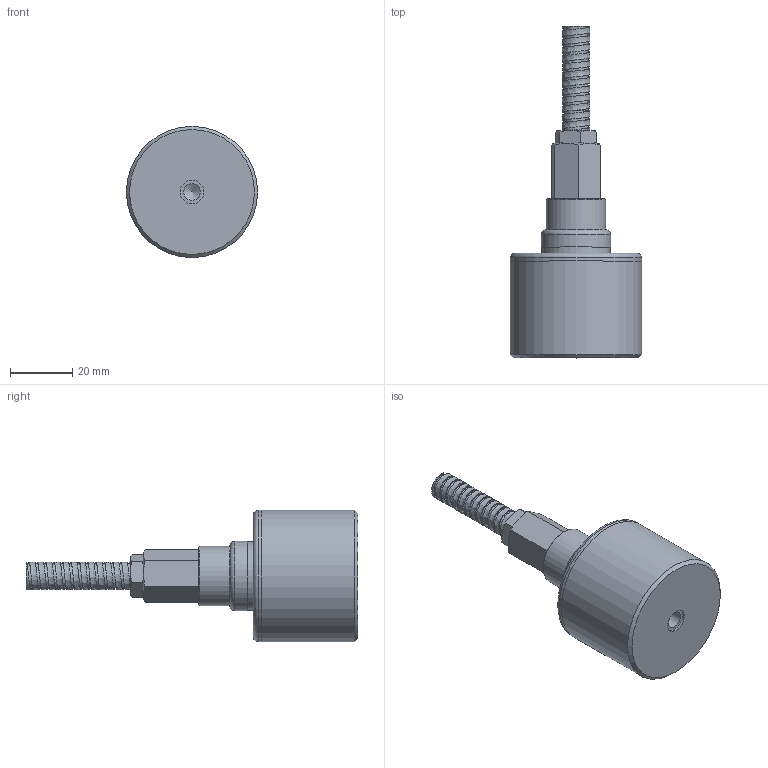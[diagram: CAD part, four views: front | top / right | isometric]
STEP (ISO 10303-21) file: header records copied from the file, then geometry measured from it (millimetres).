
FILE_DESCRIPTION(/* description */ (''),/* implementation_level */ '2;1');
FILE_NAME(/* name */ 'Z:\Engineering\Drawings\3D Library\Assemblies\Website\Triaxial Top\Premium\HS-173 Round FEP Conduit\HS-173RXXX42C01.stp',/* time_stamp */ '2023-03-25T19:44:36+00:00',/* author */ ('Ricardo.Peneda'),/* organization */ (''),/* preprocessor_version */ 'ST-DEVELOPER v18.1',/* originating_system */ 'Autodesk Inventor 2021',/* authorisation */ '');
FILE_SCHEMA (('AUTOMOTIVE_DESIGN { 1 0 10303 214 3 1 1 }'));
Length unit declared in the file: inch
Products named in the file (1): HS-173RXXX42C01_Shrinkwrap_1
Bounding box: 42 x 106.29 x 42 mm (x, y, z)
Volume: 53277.2 mm3; surface area: 18901.7 mm2
Topology: 6 solids, 6 shells, 104 faces, 267 edges, 192 vertices
Faces by surface type: plane 42, cylinder 26, cone 23, bspline 8, torus 3, sphere 2
Full cylindrical faces by diameter (mm): 5.359 x1, 6.5 x1, 7.5 x1, 7.9 x2, 8.6 x1, 9 x1, 10.2 x1, 11.959 x1, 12 x3, 14 x2, 15 x2, 18 x1, 19 x1, 19.95 x1, 20 x1, 22 x1, 22.2 x1, 40 x1, 42 x2
Entity records: 17396 total; most frequent: CARTESIAN_POINT 14661, DIRECTION 551, ORIENTED_EDGE 530, EDGE_CURVE 265, AXIS2_PLACEMENT_3D 236, VERTEX_POINT 192, CIRCLE 139, EDGE_LOOP 129
